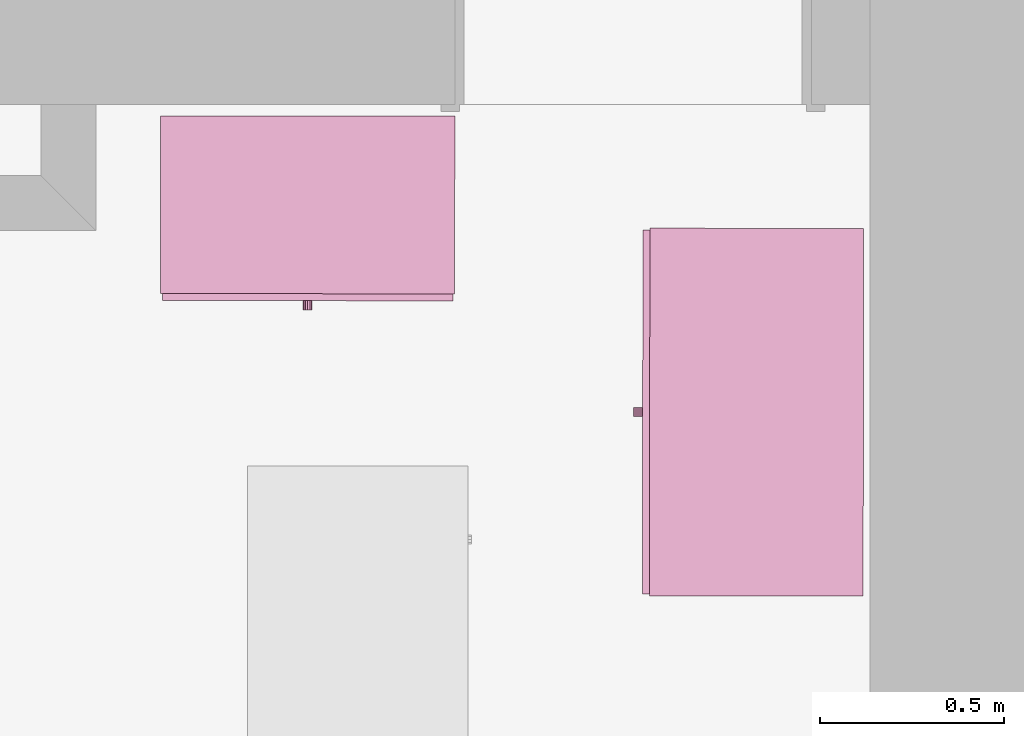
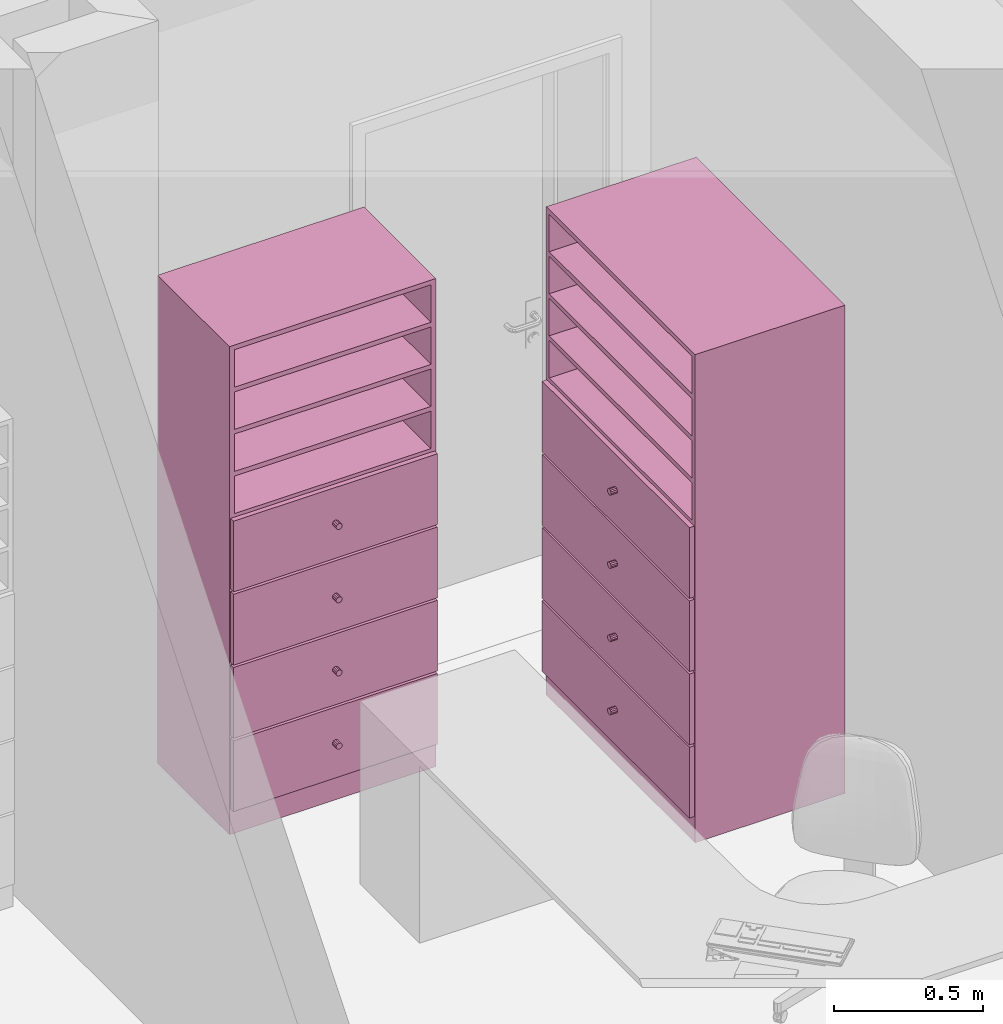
# One storey, part 163 of 194: 2 furnishings.
"""IFC2X3 building model written with IfcOpenShell, lengths in millimetres."""

import ifcopenshell
import ifcopenshell.guid

model = None  # the IFC model being written
_history = None  # IfcOwnerHistory: only IFC2X3 demands one
_inside = {}  # id of a spatial element -> (the spatial element, [elements in it])
_under = {}  # id of a project, library or spatial element -> (it, [spatial elements below it])
_declared = {}  # id of a project -> (the project, [libraries it declares])
_typed = {}  # id of a type object -> (the type object, [elements of that type])
_made_of = {}  # id of a material, layer set ... -> (it, [elements and type objects made of it])


def new_model(schema):
    """Start an empty IFC model of exactly this schema.

    Asked for "IFC4X3", IfcOpenShell would pick the latest addendum, in which some entities
    have other attributes; the version numbers below select the first issue.
    IFC2X3 requires an IfcOwnerHistory on every rooted entity: one is made here for all.
    """
    global model, _history
    if schema == "IFC4X3":
        model = ifcopenshell.file(schema_version=(4, 3, 0, 0))
    else:
        model = ifcopenshell.file(schema=schema)
    _inside.clear()
    _under.clear()
    _declared.clear()
    _typed.clear()
    _made_of.clear()
    _history = None
    if model.schema == "IFC2X3":
        org = make("IfcOrganization", Name="unknown")
        user = make(
            "IfcPersonAndOrganization",
            ThePerson=make("IfcPerson", FamilyName="unknown"),
            TheOrganization=org,
        )
        app = make(
            "IfcApplication",
            ApplicationDeveloper=org,
            Version="unknown",
            ApplicationFullName="unknown",
            ApplicationIdentifier="unknown",
        )
        _history = make(
            "IfcOwnerHistory",
            OwningUser=user,
            OwningApplication=app,
            ChangeAction="ADDED",
            CreationDate=0,
        )
    return model


def make(cls, **values):
    """One entity of the class cls with the attributes given. An attribute that is None is left unset."""
    return model.create_entity(
        cls, **{name: value for name, value in values.items() if value is not None}
    )


def entity(cls, *values):
    """Any entity or typed value of the class cls, its attributes in the order of the schema. None: left unset."""
    e = model.create_entity(cls)
    for i, value in enumerate(values):
        if value is not None:
            e[i] = value
    return e


def rooted(cls, **values):
    """An entity with a GlobalId (a new one), such as an element, a storey or a relation."""
    return make(cls, GlobalId=ifcopenshell.guid.new(), OwnerHistory=_history, **values)


def si_unit(unit_type, name, prefix=None):
    """IfcSIUnit, for example si_unit("LENGTHUNIT", "METRE", prefix="MILLI")."""
    return make("IfcSIUnit", UnitType=unit_type, Prefix=prefix, Name=name)


def converted_unit(unit_type, name, factor, base, dimensions=None, offset=None):
    """IfcConversionBasedUnit, such as the inch: factor (a typed value) times the base unit."""
    return make(
        "IfcConversionBasedUnit"
        if offset is None
        else "IfcConversionBasedUnitWithOffset",
        ConversionOffset=offset,
        Dimensions=None
        if dimensions is None
        else entity("IfcDimensionalExponents", *dimensions),
        UnitType=unit_type,
        Name=name,
        ConversionFactor=make(
            "IfcMeasureWithUnit", ValueComponent=factor, UnitComponent=base
        ),
    )


def derived_unit(unit_type, elements):
    """IfcDerivedUnit: a product of units, each with its exponent."""
    return make(
        "IfcDerivedUnit",
        Elements=[
            make("IfcDerivedUnitElement", Unit=unit, Exponent=power)
            for unit, power in elements
        ],
        UnitType=unit_type,
    )


def money_unit(currency):
    """IfcMonetaryUnit."""
    return make("IfcMonetaryUnit", Currency=currency)


def assignment(units):
    """IfcUnitAssignment: the units of a project."""
    return None if units is None else make("IfcUnitAssignment", Units=units)


def point(xyz):
    """IfcCartesianPoint."""
    return None if xyz is None else make("IfcCartesianPoint", Coordinates=xyz)


def direction(xyz):
    """IfcDirection."""
    return None if xyz is None else make("IfcDirection", DirectionRatios=xyz)


def frame(location, z_axis=None, x_axis=None):
    """IfcAxis2Placement3D, a coordinate frame: its origin and axes. An axis left out is left unset."""
    return make(
        "IfcAxis2Placement3D",
        Location=point(location),
        Axis=direction(z_axis),
        RefDirection=direction(x_axis),
    )


def origin_with_axes():
    """The frame at (0, 0, 0) with the z axis (0, 0, 1) and the x axis (1, 0, 0) written out."""
    return frame((0.0, 0.0, 0.0), z_axis=(0.0, 0.0, 1.0), x_axis=(1.0, 0.0, 0.0))


def place(relative_to, where):
    """IfcLocalPlacement: puts the frame where relative to a parent placement (None: the world)."""
    return make(
        "IfcLocalPlacement", PlacementRelTo=relative_to, RelativePlacement=where
    )


def context(
    kind, dimensions, precision=None, world=None, true_north=None, identifier=None
):
    """IfcGeometricRepresentationContext, for example the 3D "Model" context."""
    return make(
        "IfcGeometricRepresentationContext",
        ContextIdentifier=identifier,
        ContextType=kind,
        CoordinateSpaceDimension=dimensions,
        Precision=precision,
        WorldCoordinateSystem=world,
        TrueNorth=true_north,
    )


def subcontext(parent, identifier, kind, view, scale=None):
    """IfcGeometricRepresentationSubContext, for example "Body" below "Model"."""
    return make(
        "IfcGeometricRepresentationSubContext",
        ContextIdentifier=identifier,
        ContextType=kind,
        ParentContext=parent,
        TargetScale=scale,
        TargetView=view,
    )


def project(units=None, contexts=None):
    """IfcProject with its units and contexts."""
    return rooted(
        "IfcProject",
        Name="project",
        RepresentationContexts=contexts,
        UnitsInContext=assignment(units),
    )


def spatial(cls, under=None, at=None, **own):
    """A site, building, storey or space (cls), placed at a placement, below another one or the project."""
    s = rooted(cls, ObjectPlacement=at, **own)
    if under is not None:
        _under.setdefault(under.id(), (under, []))[1].append(s)
    return s


def faces_of(points, faces, orient=None, outer=None):
    """IfcFace entities. A face is a list of loops; a loop is a list of indices into points, from 0.

    orient and outer hold one flag for each loop. By default every Orientation is true, the
    first loop of a face is its IfcFaceOuterBound and the others are IfcFaceBound.
    """
    made = []
    for i, loops in enumerate(faces):
        bounds = []
        for j, loop in enumerate(loops):
            is_outer = j == 0 if outer is None else outer[i][j]
            bounds.append(
                make(
                    "IfcFaceOuterBound" if is_outer else "IfcFaceBound",
                    Bound=make("IfcPolyLoop", Polygon=[points[k] for k in loop]),
                    Orientation=True if orient is None else orient[i][j],
                )
            )
        made.append(make("IfcFace", Bounds=bounds))
    return made


def faceted_brep(points, faces, orient=None, outer=None, voids=None):
    """IfcFacetedBrep: a solid bounded by flat faces; with voids (closed shells), ...WithVoids."""
    shared = [point(p) for p in points]
    hull = make("IfcClosedShell", CfsFaces=faces_of(shared, faces, orient, outer))
    if voids is None:
        return make("IfcFacetedBrep", Outer=hull)
    return make(
        "IfcFacetedBrepWithVoids",
        Outer=hull,
        Voids=[
            make(cls, CfsFaces=faces_of(shared, fs, o, b)) for cls, fs, o, b in voids
        ],
    )


def shape(context_of_items, identifier, shape_type, items):
    """IfcShapeRepresentation: the items that make up one representation, for example the "Body"."""
    return make(
        "IfcShapeRepresentation",
        ContextOfItems=context_of_items,
        RepresentationIdentifier=identifier,
        RepresentationType=shape_type,
        Items=items,
    )


def made_of(thing, what):
    """Note that an element or type object is made of a material, layer set ...; save() writes the relation."""
    if what is not None:
        _made_of.setdefault(what.id(), (what, []))[1].append(thing)
    return thing


def type_object(cls, material=None, **own):
    """A type object (cls), such as IfcWallType, which elements share."""
    return made_of(rooted(cls, **own), material)


def element(
    cls,
    number,
    at=None,
    inside=None,
    cuts=None,
    type_object=None,
    material=None,
    context=None,
    identifier="Body",
    shape_type=None,
    held_by="IfcProductDefinitionShape",
    body=None,
    shapes=None,
    **own,
):
    """One element of the class cls, such as IfcWall. Its Tag is "e" and its number.

    at: its placement. inside: the storey or other place that contains it. cuts: it is an
    opening in that element (IfcRelVoidsElement). A single representation is given by context,
    identifier, shape_type and body (its items); several are given by shapes. held_by: the class
    of the entity that holds the representations. save() writes the other relations.
    """
    e = rooted(cls, Tag="e%d" % number, ObjectPlacement=at, **own)
    if body is not None:
        shapes = [shape(context, identifier, shape_type, body)]
    if shapes is not None:
        e.Representation = make(held_by, Representations=shapes)
    if inside is not None:
        _inside.setdefault(inside.id(), (inside, []))[1].append(e)
    if cuts is not None:
        rooted(
            "IfcRelVoidsElement", RelatingBuildingElement=cuts, RelatedOpeningElement=e
        )
    if type_object is not None:
        _typed.setdefault(type_object.id(), (type_object, []))[1].append(e)
    return made_of(e, material)


def aggregate(whole, parts):
    """IfcRelAggregates: a whole, such as a stair, and the parts it consists of."""
    return rooted("IfcRelAggregates", RelatingObject=whole, RelatedObjects=parts)


def save(model, path):
    """Write the relations noted so far, then the file.

    IfcRelAggregates (storeys below a building ...), IfcRelContainedInSpatialStructure (elements
    in a storey), IfcRelDefinesByType, IfcRelAssociatesMaterial and IfcRelDeclares: one each for
    every whole, place, type object, material and project.
    """
    for whole, parts in _under.values():
        aggregate(whole, parts)
    for where, things in _inside.values():
        rooted(
            "IfcRelContainedInSpatialStructure",
            RelatedElements=things,
            RelatingStructure=where,
        )
    for kind, things in _typed.values():
        rooted("IfcRelDefinesByType", RelatedObjects=things, RelatingType=kind)
    for what, things in _made_of.values():
        rooted("IfcRelAssociatesMaterial", RelatedObjects=things, RelatingMaterial=what)
    for by, libraries in _declared.values():
        rooted("IfcRelDeclares", RelatingContext=by, RelatedDefinitions=libraries)
    model.write(path)


model = new_model("IFC2X3")

# Units and contexts
model_context = context("Model", 3, precision=1e-05, world=origin_with_axes(), true_north=direction((0.0, 1.0)))
body_context = subcontext(model_context, "Body", "Model", "MODEL_VIEW")
ifc_project = project(units=[si_unit("LENGTHUNIT", "METRE", prefix="MILLI"), si_unit("AREAUNIT", "SQUARE_METRE"), si_unit("VOLUMEUNIT", "CUBIC_METRE"), converted_unit("PLANEANGLEUNIT", "DEGREE", entity("IfcPlaneAngleMeasure", 0.0174532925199), si_unit("PLANEANGLEUNIT", "RADIAN"), dimensions=[0, 0, 0, 0, 0, 0, 0]), si_unit("SOLIDANGLEUNIT", "STERADIAN"), money_unit("EUR"), converted_unit("TIMEUNIT", "Year", entity("IfcTimeMeasure", 31556926.0), si_unit("TIMEUNIT", "SECOND"), dimensions=[0, 0, 1, 0, 0, 0, 0]), si_unit("MASSUNIT", "GRAM", prefix="KILO"), si_unit("THERMODYNAMICTEMPERATUREUNIT", "DEGREE_CELSIUS"), si_unit("LUMINOUSINTENSITYUNIT", "LUMEN"), si_unit("ENERGYUNIT", "JOULE", prefix="MEGA"), derived_unit("THERMALCONDUCTANCEUNIT", [(si_unit("POWERUNIT", "WATT"), 1), (si_unit("LENGTHUNIT", "METRE"), -1), (si_unit("THERMODYNAMICTEMPERATUREUNIT", "KELVIN"), -1)]), derived_unit("SPECIFICHEATCAPACITYUNIT", [(si_unit("ENERGYUNIT", "JOULE"), 1), (si_unit("MASSUNIT", "GRAM", prefix="KILO"), -1), (si_unit("THERMODYNAMICTEMPERATUREUNIT", "KELVIN"), -1)]), derived_unit("MASSDENSITYUNIT", [(si_unit("MASSUNIT", "GRAM", prefix="KILO"), 1), (si_unit("VOLUMEUNIT", "CUBIC_METRE"), -1)])], contexts=[model_context])

# Site, building, storey
site_placement = place(None, origin_with_axes())
site = spatial("IfcSite", under=ifc_project, at=site_placement, Name="Site", CompositionType="ELEMENT")
building_placement = place(site_placement, origin_with_axes())
building = spatial("IfcBuilding", under=site, at=building_placement, Name="Building", CompositionType="ELEMENT")
storey_placement = place(building_placement, frame((0.0, 0.0, 3000.0), z_axis=(0.0, 0.0, 1.0), x_axis=(1.0, 0.0, 0.0)))
storey = spatial("IfcBuildingStorey", under=building, at=storey_placement, Name="2 KORRUS", CompositionType="ELEMENT", Elevation=3000.0)

# Furnishings
furnishing_element_type_1 = type_object("IfcFurnishingElementType", Name="Model Element 171")
furnishing_1_placement = place(storey_placement, frame((30117.0599054, 38258.0182743, 0.0), z_axis=(0.0, 0.0, 1.0), x_axis=(-0.00064265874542, -0.999999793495, 0.0)))
element("IfcFurnishingElement", 1, at=furnishing_1_placement, inside=storey, type_object=furnishing_element_type_1, Name="FU - 001", context=body_context, shape_type="Brep", body=[
    faceted_brep([(1000.0, 19.0, 0.0), (0.0, 19.0, 0.0), (0.0, 600.040938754, 0.0), (1000.0, 600.040938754, 0.0), (1000.0, 19.0, 100.0), (0.0, 19.0, 100.0), (0.0, 600.040938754, 100.0), (1000.0, 600.040938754, 100.0)], [[[0, 1, 2, 3]], [[1, 0, 4, 5]], [[2, 1, 5, 6]], [[3, 2, 6, 7]], [[0, 3, 7, 4]], [[5, 4, 7, 6]]]),
    faceted_brep([(19.0, 600.040938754, 119.0), (19.0, 581.040938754, 119.0), (19.0, 581.040938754, 1981.0), (19.0, 600.040938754, 1981.0), (981.0, 600.040938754, 119.0), (981.0, 581.040938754, 119.0), (981.0, 581.040938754, 1981.0), (981.0, 600.040938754, 1981.0)], [[[0, 1, 2, 3]], [[0, 4, 5, 1]], [[1, 5, 6, 2]], [[3, 2, 6, 7]], [[4, 0, 3, 7]], [[5, 4, 7, 6]]]),
    faceted_brep([(1000.0, 19.0, 100.0), (981.0, 19.0, 100.0), (981.0, 600.040938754, 100.0), (1000.0, 600.040938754, 100.0), (1000.0, 19.0, 2000.0), (981.0, 19.0, 2000.0), (981.0, 600.040938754, 2000.0), (1000.0, 600.040938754, 2000.0)], [[[0, 1, 2, 3]], [[1, 0, 4, 5]], [[2, 1, 5, 6]], [[3, 2, 6, 7]], [[0, 3, 7, 4]], [[5, 4, 7, 6]]]),
    faceted_brep([(19.0, 19.0, 100.0), (0.0, 19.0, 100.0), (0.0, 600.040938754, 100.0), (19.0, 600.040938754, 100.0), (19.0, 19.0, 2000.0), (0.0, 19.0, 2000.0), (0.0, 600.040938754, 2000.0), (19.0, 600.040938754, 2000.0)], [[[0, 1, 2, 3]], [[1, 0, 4, 5]], [[2, 1, 5, 6]], [[3, 2, 6, 7]], [[0, 3, 7, 4]], [[5, 4, 7, 6]]]),
    faceted_brep([(981.0, 19.0, 100.0), (19.0, 19.0, 100.0), (19.0, 600.040938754, 100.0), (981.0, 600.040938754, 100.0), (981.0, 19.0, 119.0), (19.0, 19.0, 119.0), (19.0, 600.040938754, 119.0), (981.0, 600.040938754, 119.0)], [[[0, 1, 2, 3]], [[1, 0, 4, 5]], [[2, 1, 5, 6]], [[3, 2, 6, 7]], [[0, 3, 7, 4]], [[5, 4, 7, 6]]]),
    faceted_brep([(981.0, 19.0, 1981.0), (19.0, 19.0, 1981.0), (19.0, 600.040938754, 1981.0), (981.0, 600.040938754, 1981.0), (981.0, 19.0, 2000.0), (19.0, 19.0, 2000.0), (19.0, 600.040938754, 2000.0), (981.0, 600.040938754, 2000.0)], [[[0, 1, 2, 3]], [[1, 0, 4, 5]], [[2, 1, 5, 6]], [[3, 2, 6, 7]], [[0, 3, 7, 4]], [[5, 4, 7, 6]]]),
    faceted_brep([(5.0, 19.0, 105.0), (995.0, 19.0, 105.0), (995.0, 0.0, 105.0), (5.0, 0.0, 105.0), (5.0, 19.0, 395.0), (995.0, 19.0, 395.0), (995.0, 0.0, 395.0), (5.0, 0.0, 395.0)], [[[0, 1, 2, 3]], [[0, 4, 5, 1]], [[1, 5, 6, 2]], [[3, 2, 6, 7]], [[4, 0, 3, 7]], [[5, 4, 7, 6]]]),
    faceted_brep([(510.392304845, 0.0, 244.0), (506.0, 0.0, 239.607695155), (500.0, 0.0, 238.0), (494.0, 0.0, 239.607695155), (489.607695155, 0.0, 244.0), (488.0, 0.0, 250.0), (489.607695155, 0.0, 256.0), (494.0, 0.0, 260.392304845), (500.0, 0.0, 262.0), (506.0, 0.0, 260.392304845), (510.392304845, 0.0, 256.0), (512.0, 0.0, 250.0), (510.392304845, -25.0, 244.0), (506.0, -25.0, 239.607695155), (500.0, -25.0, 238.0), (494.0, -25.0, 239.607695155), (489.607695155, -25.0, 244.0), (488.0, -25.0, 250.0), (489.607695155, -25.0, 256.0), (494.0, -25.0, 260.392304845), (500.0, -25.0, 262.0), (506.0, -25.0, 260.392304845), (510.392304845, -25.0, 256.0), (512.0, -25.0, 250.0)], [[[0, 1, 2, 3, 4, 5, 6, 7, 8, 9, 10, 11]], [[1, 0, 12, 13]], [[2, 1, 13, 14]], [[3, 2, 14, 15]], [[4, 3, 15, 16]], [[5, 4, 16, 17]], [[6, 5, 17, 18]], [[7, 6, 18, 19]], [[8, 7, 19, 20]], [[9, 8, 20, 21]], [[10, 9, 21, 22]], [[11, 10, 22, 23]], [[0, 11, 23, 12]], [[12, 23, 22, 21, 20, 19, 18, 17, 16, 15, 14, 13]]]),
    faceted_brep([(5.0, 19.0, 405.0), (995.0, 19.0, 405.0), (995.0, 0.0, 405.0), (5.0, 0.0, 405.0), (5.0, 19.0, 695.0), (995.0, 19.0, 695.0), (995.0, 0.0, 695.0), (5.0, 0.0, 695.0)], [[[0, 1, 2, 3]], [[0, 4, 5, 1]], [[1, 5, 6, 2]], [[3, 2, 6, 7]], [[4, 0, 3, 7]], [[5, 4, 7, 6]]]),
    faceted_brep([(510.392304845, 0.0, 544.0), (506.0, 0.0, 539.607695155), (500.0, 0.0, 538.0), (494.0, 0.0, 539.607695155), (489.607695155, 0.0, 544.0), (488.0, 0.0, 550.0), (489.607695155, 0.0, 556.0), (494.0, 0.0, 560.392304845), (500.0, 0.0, 562.0), (506.0, 0.0, 560.392304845), (510.392304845, 0.0, 556.0), (512.0, 0.0, 550.0), (510.392304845, -25.0, 544.0), (506.0, -25.0, 539.607695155), (500.0, -25.0, 538.0), (494.0, -25.0, 539.607695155), (489.607695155, -25.0, 544.0), (488.0, -25.0, 550.0), (489.607695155, -25.0, 556.0), (494.0, -25.0, 560.392304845), (500.0, -25.0, 562.0), (506.0, -25.0, 560.392304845), (510.392304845, -25.0, 556.0), (512.0, -25.0, 550.0)], [[[0, 1, 2, 3, 4, 5, 6, 7, 8, 9, 10, 11]], [[1, 0, 12, 13]], [[2, 1, 13, 14]], [[3, 2, 14, 15]], [[4, 3, 15, 16]], [[5, 4, 16, 17]], [[6, 5, 17, 18]], [[7, 6, 18, 19]], [[8, 7, 19, 20]], [[9, 8, 20, 21]], [[10, 9, 21, 22]], [[11, 10, 22, 23]], [[0, 11, 23, 12]], [[12, 23, 22, 21, 20, 19, 18, 17, 16, 15, 14, 13]]]),
    faceted_brep([(5.0, 19.0, 705.0), (995.0, 19.0, 705.0), (995.0, 0.0, 705.0), (5.0, 0.0, 705.0), (5.0, 19.0, 995.0), (995.0, 19.0, 995.0), (995.0, 0.0, 995.0), (5.0, 0.0, 995.0)], [[[0, 1, 2, 3]], [[0, 4, 5, 1]], [[1, 5, 6, 2]], [[3, 2, 6, 7]], [[4, 0, 3, 7]], [[5, 4, 7, 6]]]),
    faceted_brep([(510.392304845, 0.0, 844.0), (506.0, 0.0, 839.607695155), (500.0, 0.0, 838.0), (494.0, 0.0, 839.607695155), (489.607695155, 0.0, 844.0), (488.0, 0.0, 850.0), (489.607695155, 0.0, 856.0), (494.0, 0.0, 860.392304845), (500.0, 0.0, 862.0), (506.0, 0.0, 860.392304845), (510.392304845, 0.0, 856.0), (512.0, 0.0, 850.0), (510.392304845, -25.0, 844.0), (506.0, -25.0, 839.607695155), (500.0, -25.0, 838.0), (494.0, -25.0, 839.607695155), (489.607695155, -25.0, 844.0), (488.0, -25.0, 850.0), (489.607695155, -25.0, 856.0), (494.0, -25.0, 860.392304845), (500.0, -25.0, 862.0), (506.0, -25.0, 860.392304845), (510.392304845, -25.0, 856.0), (512.0, -25.0, 850.0)], [[[0, 1, 2, 3, 4, 5, 6, 7, 8, 9, 10, 11]], [[1, 0, 12, 13]], [[2, 1, 13, 14]], [[3, 2, 14, 15]], [[4, 3, 15, 16]], [[5, 4, 16, 17]], [[6, 5, 17, 18]], [[7, 6, 18, 19]], [[8, 7, 19, 20]], [[9, 8, 20, 21]], [[10, 9, 21, 22]], [[11, 10, 22, 23]], [[0, 11, 23, 12]], [[12, 23, 22, 21, 20, 19, 18, 17, 16, 15, 14, 13]]]),
    faceted_brep([(5.0, 19.0, 1005.0), (995.0, 19.0, 1005.0), (995.0, 0.0, 1005.0), (5.0, 0.0, 1005.0), (5.0, 19.0, 1295.0), (995.0, 19.0, 1295.0), (995.0, 0.0, 1295.0), (5.0, 0.0, 1295.0)], [[[0, 1, 2, 3]], [[0, 4, 5, 1]], [[1, 5, 6, 2]], [[3, 2, 6, 7]], [[4, 0, 3, 7]], [[5, 4, 7, 6]]]),
    faceted_brep([(510.392304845, 0.0, 1144.0), (506.0, 0.0, 1139.60769515), (500.0, 0.0, 1138.0), (494.0, 0.0, 1139.60769515), (489.607695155, 0.0, 1144.0), (488.0, 0.0, 1150.0), (489.607695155, 0.0, 1156.0), (494.0, 0.0, 1160.39230485), (500.0, 0.0, 1162.0), (506.0, 0.0, 1160.39230485), (510.392304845, 0.0, 1156.0), (512.0, 0.0, 1150.0), (510.392304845, -25.0, 1144.0), (506.0, -25.0, 1139.60769515), (500.0, -25.0, 1138.0), (494.0, -25.0, 1139.60769515), (489.607695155, -25.0, 1144.0), (488.0, -25.0, 1150.0), (489.607695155, -25.0, 1156.0), (494.0, -25.0, 1160.39230485), (500.0, -25.0, 1162.0), (506.0, -25.0, 1160.39230485), (510.392304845, -25.0, 1156.0), (512.0, -25.0, 1150.0)], [[[0, 1, 2, 3, 4, 5, 6, 7, 8, 9, 10, 11]], [[1, 0, 12, 13]], [[2, 1, 13, 14]], [[3, 2, 14, 15]], [[4, 3, 15, 16]], [[5, 4, 16, 17]], [[6, 5, 17, 18]], [[7, 6, 18, 19]], [[8, 7, 19, 20]], [[9, 8, 20, 21]], [[10, 9, 21, 22]], [[11, 10, 22, 23]], [[0, 11, 23, 12]], [[12, 23, 22, 21, 20, 19, 18, 17, 16, 15, 14, 13]]]),
    faceted_brep([(19.0, 19.0, 390.5), (981.0, 19.0, 390.5), (981.0, 19.0, 409.5), (19.0, 19.0, 409.5), (19.0, 581.040938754, 390.5), (981.0, 581.040938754, 390.5), (981.0, 581.040938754, 409.5), (19.0, 581.040938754, 409.5)], [[[0, 1, 2, 3]], [[0, 4, 5, 1]], [[1, 5, 6, 2]], [[3, 2, 6, 7]], [[4, 0, 3, 7]], [[5, 4, 7, 6]]]),
    faceted_brep([(19.0, 19.0, 690.5), (981.0, 19.0, 690.5), (981.0, 19.0, 709.5), (19.0, 19.0, 709.5), (19.0, 581.040938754, 690.5), (981.0, 581.040938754, 690.5), (981.0, 581.040938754, 709.5), (19.0, 581.040938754, 709.5)], [[[0, 1, 2, 3]], [[0, 4, 5, 1]], [[1, 5, 6, 2]], [[3, 2, 6, 7]], [[4, 0, 3, 7]], [[5, 4, 7, 6]]]),
    faceted_brep([(19.0, 19.0, 990.5), (981.0, 19.0, 990.5), (981.0, 19.0, 1009.5), (19.0, 19.0, 1009.5), (19.0, 581.040938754, 990.5), (981.0, 581.040938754, 990.5), (981.0, 581.040938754, 1009.5), (19.0, 581.040938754, 1009.5)], [[[0, 1, 2, 3]], [[0, 4, 5, 1]], [[1, 5, 6, 2]], [[3, 2, 6, 7]], [[4, 0, 3, 7]], [[5, 4, 7, 6]]]),
    faceted_brep([(19.0, 19.0, 1290.5), (981.0, 19.0, 1290.5), (981.0, 19.0, 1309.5), (19.0, 19.0, 1309.5), (19.0, 581.040938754, 1290.5), (981.0, 581.040938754, 1290.5), (981.0, 581.040938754, 1309.5), (19.0, 581.040938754, 1309.5)], [[[0, 1, 2, 3]], [[0, 4, 5, 1]], [[1, 5, 6, 2]], [[3, 2, 6, 7]], [[4, 0, 3, 7]], [[5, 4, 7, 6]]]),
    faceted_brep([(981.0, 19.0, 1463.125), (19.0, 19.0, 1463.125), (19.0, 581.040938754, 1463.125), (981.0, 581.040938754, 1463.125), (981.0, 19.0, 1482.125), (19.0, 19.0, 1482.125), (19.0, 581.040938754, 1482.125), (981.0, 581.040938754, 1482.125)], [[[0, 1, 2, 3]], [[1, 0, 4, 5]], [[2, 1, 5, 6]], [[3, 2, 6, 7]], [[0, 3, 7, 4]], [[5, 4, 7, 6]]]),
    faceted_brep([(981.0, 19.0, 1635.75), (19.0, 19.0, 1635.75), (19.0, 581.040938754, 1635.75), (981.0, 581.040938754, 1635.75), (981.0, 19.0, 1654.75), (19.0, 19.0, 1654.75), (19.0, 581.040938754, 1654.75), (981.0, 581.040938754, 1654.75)], [[[0, 1, 2, 3]], [[1, 0, 4, 5]], [[2, 1, 5, 6]], [[3, 2, 6, 7]], [[0, 3, 7, 4]], [[5, 4, 7, 6]]]),
    faceted_brep([(981.0, 19.0, 1808.375), (19.0, 19.0, 1808.375), (19.0, 581.040938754, 1808.375), (981.0, 581.040938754, 1808.375), (981.0, 19.0, 1827.375), (19.0, 19.0, 1827.375), (19.0, 581.040938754, 1827.375), (981.0, 581.040938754, 1827.375)], [[[0, 1, 2, 3]], [[1, 0, 4, 5]], [[2, 1, 5, 6]], [[3, 2, 6, 7]], [[0, 3, 7, 4]], [[5, 4, 7, 6]]]),
])
furnishing_element_type_2 = type_object("IfcFurnishingElementType", Name="Model Element 173")
furnishing_2_placement = place(storey_placement, frame((28805.2348295, 38061.0250646, 0.0), z_axis=(0.0, 0.0, 1.0), x_axis=(0.999999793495, -0.000642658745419, 0.0)))
element("IfcFurnishingElement", 2, at=furnishing_2_placement, inside=storey, type_object=furnishing_element_type_2, Name="FU - 001", context=body_context, shape_type="Brep", body=[
    faceted_brep([(800.0, 19.0, 0.0), (0.0, 19.0, 0.0), (0.0, 502.225355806, 0.0), (800.0, 502.225355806, 0.0), (800.0, 19.0, 100.0), (0.0, 19.0, 100.0), (0.0, 502.225355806, 100.0), (800.0, 502.225355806, 100.0)], [[[0, 1, 2, 3]], [[1, 0, 4, 5]], [[2, 1, 5, 6]], [[3, 2, 6, 7]], [[0, 3, 7, 4]], [[5, 4, 7, 6]]]),
    faceted_brep([(19.0, 502.225355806, 119.0), (19.0, 483.225355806, 119.0), (19.0, 483.225355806, 1981.0), (19.0, 502.225355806, 1981.0), (781.0, 502.225355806, 119.0), (781.0, 483.225355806, 119.0), (781.0, 483.225355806, 1981.0), (781.0, 502.225355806, 1981.0)], [[[0, 1, 2, 3]], [[0, 4, 5, 1]], [[1, 5, 6, 2]], [[3, 2, 6, 7]], [[4, 0, 3, 7]], [[5, 4, 7, 6]]]),
    faceted_brep([(800.0, 19.0, 100.0), (781.0, 19.0, 100.0), (781.0, 502.225355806, 100.0), (800.0, 502.225355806, 100.0), (800.0, 19.0, 2000.0), (781.0, 19.0, 2000.0), (781.0, 502.225355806, 2000.0), (800.0, 502.225355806, 2000.0)], [[[0, 1, 2, 3]], [[1, 0, 4, 5]], [[2, 1, 5, 6]], [[3, 2, 6, 7]], [[0, 3, 7, 4]], [[5, 4, 7, 6]]]),
    faceted_brep([(19.0, 19.0, 100.0), (0.0, 19.0, 100.0), (0.0, 502.225355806, 100.0), (19.0, 502.225355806, 100.0), (19.0, 19.0, 2000.0), (0.0, 19.0, 2000.0), (0.0, 502.225355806, 2000.0), (19.0, 502.225355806, 2000.0)], [[[0, 1, 2, 3]], [[1, 0, 4, 5]], [[2, 1, 5, 6]], [[3, 2, 6, 7]], [[0, 3, 7, 4]], [[5, 4, 7, 6]]]),
    faceted_brep([(781.0, 19.0, 100.0), (19.0, 19.0, 100.0), (19.0, 502.225355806, 100.0), (781.0, 502.225355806, 100.0), (781.0, 19.0, 119.0), (19.0, 19.0, 119.0), (19.0, 502.225355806, 119.0), (781.0, 502.225355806, 119.0)], [[[0, 1, 2, 3]], [[1, 0, 4, 5]], [[2, 1, 5, 6]], [[3, 2, 6, 7]], [[0, 3, 7, 4]], [[5, 4, 7, 6]]]),
    faceted_brep([(781.0, 19.0, 1981.0), (19.0, 19.0, 1981.0), (19.0, 502.225355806, 1981.0), (781.0, 502.225355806, 1981.0), (781.0, 19.0, 2000.0), (19.0, 19.0, 2000.0), (19.0, 502.225355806, 2000.0), (781.0, 502.225355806, 2000.0)], [[[0, 1, 2, 3]], [[1, 0, 4, 5]], [[2, 1, 5, 6]], [[3, 2, 6, 7]], [[0, 3, 7, 4]], [[5, 4, 7, 6]]]),
    faceted_brep([(5.0, 19.0, 105.0), (795.0, 19.0, 105.0), (795.0, 0.0, 105.0), (5.0, 0.0, 105.0), (5.0, 19.0, 395.0), (795.0, 19.0, 395.0), (795.0, 0.0, 395.0), (5.0, 0.0, 395.0)], [[[0, 1, 2, 3]], [[0, 4, 5, 1]], [[1, 5, 6, 2]], [[3, 2, 6, 7]], [[4, 0, 3, 7]], [[5, 4, 7, 6]]]),
    faceted_brep([(410.392304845, 0.0, 244.0), (406.0, 0.0, 239.607695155), (400.0, 0.0, 238.0), (394.0, 0.0, 239.607695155), (389.607695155, 0.0, 244.0), (388.0, 0.0, 250.0), (389.607695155, 0.0, 256.0), (394.0, 0.0, 260.392304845), (400.0, 0.0, 262.0), (406.0, 0.0, 260.392304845), (410.392304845, 0.0, 256.0), (412.0, 0.0, 250.0), (410.392304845, -25.0, 244.0), (406.0, -25.0, 239.607695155), (400.0, -25.0, 238.0), (394.0, -25.0, 239.607695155), (389.607695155, -25.0, 244.0), (388.0, -25.0, 250.0), (389.607695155, -25.0, 256.0), (394.0, -25.0, 260.392304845), (400.0, -25.0, 262.0), (406.0, -25.0, 260.392304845), (410.392304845, -25.0, 256.0), (412.0, -25.0, 250.0)], [[[0, 1, 2, 3, 4, 5, 6, 7, 8, 9, 10, 11]], [[1, 0, 12, 13]], [[2, 1, 13, 14]], [[3, 2, 14, 15]], [[4, 3, 15, 16]], [[5, 4, 16, 17]], [[6, 5, 17, 18]], [[7, 6, 18, 19]], [[8, 7, 19, 20]], [[9, 8, 20, 21]], [[10, 9, 21, 22]], [[11, 10, 22, 23]], [[0, 11, 23, 12]], [[12, 23, 22, 21, 20, 19, 18, 17, 16, 15, 14, 13]]]),
    faceted_brep([(5.0, 19.0, 405.0), (795.0, 19.0, 405.0), (795.0, 0.0, 405.0), (5.0, 0.0, 405.0), (5.0, 19.0, 695.0), (795.0, 19.0, 695.0), (795.0, 0.0, 695.0), (5.0, 0.0, 695.0)], [[[0, 1, 2, 3]], [[0, 4, 5, 1]], [[1, 5, 6, 2]], [[3, 2, 6, 7]], [[4, 0, 3, 7]], [[5, 4, 7, 6]]]),
    faceted_brep([(410.392304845, 0.0, 544.0), (406.0, 0.0, 539.607695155), (400.0, 0.0, 538.0), (394.0, 0.0, 539.607695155), (389.607695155, 0.0, 544.0), (388.0, 0.0, 550.0), (389.607695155, 0.0, 556.0), (394.0, 0.0, 560.392304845), (400.0, 0.0, 562.0), (406.0, 0.0, 560.392304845), (410.392304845, 0.0, 556.0), (412.0, 0.0, 550.0), (410.392304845, -25.0, 544.0), (406.0, -25.0, 539.607695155), (400.0, -25.0, 538.0), (394.0, -25.0, 539.607695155), (389.607695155, -25.0, 544.0), (388.0, -25.0, 550.0), (389.607695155, -25.0, 556.0), (394.0, -25.0, 560.392304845), (400.0, -25.0, 562.0), (406.0, -25.0, 560.392304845), (410.392304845, -25.0, 556.0), (412.0, -25.0, 550.0)], [[[0, 1, 2, 3, 4, 5, 6, 7, 8, 9, 10, 11]], [[1, 0, 12, 13]], [[2, 1, 13, 14]], [[3, 2, 14, 15]], [[4, 3, 15, 16]], [[5, 4, 16, 17]], [[6, 5, 17, 18]], [[7, 6, 18, 19]], [[8, 7, 19, 20]], [[9, 8, 20, 21]], [[10, 9, 21, 22]], [[11, 10, 22, 23]], [[0, 11, 23, 12]], [[12, 23, 22, 21, 20, 19, 18, 17, 16, 15, 14, 13]]]),
    faceted_brep([(5.0, 19.0, 705.0), (795.0, 19.0, 705.0), (795.0, 0.0, 705.0), (5.0, 0.0, 705.0), (5.0, 19.0, 995.0), (795.0, 19.0, 995.0), (795.0, 0.0, 995.0), (5.0, 0.0, 995.0)], [[[0, 1, 2, 3]], [[0, 4, 5, 1]], [[1, 5, 6, 2]], [[3, 2, 6, 7]], [[4, 0, 3, 7]], [[5, 4, 7, 6]]]),
    faceted_brep([(410.392304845, 0.0, 844.0), (406.0, 0.0, 839.607695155), (400.0, 0.0, 838.0), (394.0, 0.0, 839.607695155), (389.607695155, 0.0, 844.0), (388.0, 0.0, 850.0), (389.607695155, 0.0, 856.0), (394.0, 0.0, 860.392304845), (400.0, 0.0, 862.0), (406.0, 0.0, 860.392304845), (410.392304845, 0.0, 856.0), (412.0, 0.0, 850.0), (410.392304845, -25.0, 844.0), (406.0, -25.0, 839.607695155), (400.0, -25.0, 838.0), (394.0, -25.0, 839.607695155), (389.607695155, -25.0, 844.0), (388.0, -25.0, 850.0), (389.607695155, -25.0, 856.0), (394.0, -25.0, 860.392304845), (400.0, -25.0, 862.0), (406.0, -25.0, 860.392304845), (410.392304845, -25.0, 856.0), (412.0, -25.0, 850.0)], [[[0, 1, 2, 3, 4, 5, 6, 7, 8, 9, 10, 11]], [[1, 0, 12, 13]], [[2, 1, 13, 14]], [[3, 2, 14, 15]], [[4, 3, 15, 16]], [[5, 4, 16, 17]], [[6, 5, 17, 18]], [[7, 6, 18, 19]], [[8, 7, 19, 20]], [[9, 8, 20, 21]], [[10, 9, 21, 22]], [[11, 10, 22, 23]], [[0, 11, 23, 12]], [[12, 23, 22, 21, 20, 19, 18, 17, 16, 15, 14, 13]]]),
    faceted_brep([(5.0, 19.0, 1005.0), (795.0, 19.0, 1005.0), (795.0, 0.0, 1005.0), (5.0, 0.0, 1005.0), (5.0, 19.0, 1295.0), (795.0, 19.0, 1295.0), (795.0, 0.0, 1295.0), (5.0, 0.0, 1295.0)], [[[0, 1, 2, 3]], [[0, 4, 5, 1]], [[1, 5, 6, 2]], [[3, 2, 6, 7]], [[4, 0, 3, 7]], [[5, 4, 7, 6]]]),
    faceted_brep([(410.392304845, 0.0, 1144.0), (406.0, 0.0, 1139.60769515), (400.0, 0.0, 1138.0), (394.0, 0.0, 1139.60769515), (389.607695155, 0.0, 1144.0), (388.0, 0.0, 1150.0), (389.607695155, 0.0, 1156.0), (394.0, 0.0, 1160.39230485), (400.0, 0.0, 1162.0), (406.0, 0.0, 1160.39230485), (410.392304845, 0.0, 1156.0), (412.0, 0.0, 1150.0), (410.392304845, -25.0, 1144.0), (406.0, -25.0, 1139.60769515), (400.0, -25.0, 1138.0), (394.0, -25.0, 1139.60769515), (389.607695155, -25.0, 1144.0), (388.0, -25.0, 1150.0), (389.607695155, -25.0, 1156.0), (394.0, -25.0, 1160.39230485), (400.0, -25.0, 1162.0), (406.0, -25.0, 1160.39230485), (410.392304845, -25.0, 1156.0), (412.0, -25.0, 1150.0)], [[[0, 1, 2, 3, 4, 5, 6, 7, 8, 9, 10, 11]], [[1, 0, 12, 13]], [[2, 1, 13, 14]], [[3, 2, 14, 15]], [[4, 3, 15, 16]], [[5, 4, 16, 17]], [[6, 5, 17, 18]], [[7, 6, 18, 19]], [[8, 7, 19, 20]], [[9, 8, 20, 21]], [[10, 9, 21, 22]], [[11, 10, 22, 23]], [[0, 11, 23, 12]], [[12, 23, 22, 21, 20, 19, 18, 17, 16, 15, 14, 13]]]),
    faceted_brep([(19.0, 19.0, 390.5), (781.0, 19.0, 390.5), (781.0, 19.0, 409.5), (19.0, 19.0, 409.5), (19.0, 483.225355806, 390.5), (781.0, 483.225355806, 390.5), (781.0, 483.225355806, 409.5), (19.0, 483.225355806, 409.5)], [[[0, 1, 2, 3]], [[0, 4, 5, 1]], [[1, 5, 6, 2]], [[3, 2, 6, 7]], [[4, 0, 3, 7]], [[5, 4, 7, 6]]]),
    faceted_brep([(19.0, 19.0, 690.5), (781.0, 19.0, 690.5), (781.0, 19.0, 709.5), (19.0, 19.0, 709.5), (19.0, 483.225355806, 690.5), (781.0, 483.225355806, 690.5), (781.0, 483.225355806, 709.5), (19.0, 483.225355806, 709.5)], [[[0, 1, 2, 3]], [[0, 4, 5, 1]], [[1, 5, 6, 2]], [[3, 2, 6, 7]], [[4, 0, 3, 7]], [[5, 4, 7, 6]]]),
    faceted_brep([(19.0, 19.0, 990.5), (781.0, 19.0, 990.5), (781.0, 19.0, 1009.5), (19.0, 19.0, 1009.5), (19.0, 483.225355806, 990.5), (781.0, 483.225355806, 990.5), (781.0, 483.225355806, 1009.5), (19.0, 483.225355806, 1009.5)], [[[0, 1, 2, 3]], [[0, 4, 5, 1]], [[1, 5, 6, 2]], [[3, 2, 6, 7]], [[4, 0, 3, 7]], [[5, 4, 7, 6]]]),
    faceted_brep([(19.0, 19.0, 1290.5), (781.0, 19.0, 1290.5), (781.0, 19.0, 1309.5), (19.0, 19.0, 1309.5), (19.0, 483.225355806, 1290.5), (781.0, 483.225355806, 1290.5), (781.0, 483.225355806, 1309.5), (19.0, 483.225355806, 1309.5)], [[[0, 1, 2, 3]], [[0, 4, 5, 1]], [[1, 5, 6, 2]], [[3, 2, 6, 7]], [[4, 0, 3, 7]], [[5, 4, 7, 6]]]),
    faceted_brep([(781.0, 19.0, 1463.125), (19.0, 19.0, 1463.125), (19.0, 483.225355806, 1463.125), (781.0, 483.225355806, 1463.125), (781.0, 19.0, 1482.125), (19.0, 19.0, 1482.125), (19.0, 483.225355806, 1482.125), (781.0, 483.225355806, 1482.125)], [[[0, 1, 2, 3]], [[1, 0, 4, 5]], [[2, 1, 5, 6]], [[3, 2, 6, 7]], [[0, 3, 7, 4]], [[5, 4, 7, 6]]]),
    faceted_brep([(781.0, 19.0, 1635.75), (19.0, 19.0, 1635.75), (19.0, 483.225355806, 1635.75), (781.0, 483.225355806, 1635.75), (781.0, 19.0, 1654.75), (19.0, 19.0, 1654.75), (19.0, 483.225355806, 1654.75), (781.0, 483.225355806, 1654.75)], [[[0, 1, 2, 3]], [[1, 0, 4, 5]], [[2, 1, 5, 6]], [[3, 2, 6, 7]], [[0, 3, 7, 4]], [[5, 4, 7, 6]]]),
    faceted_brep([(781.0, 19.0, 1808.375), (19.0, 19.0, 1808.375), (19.0, 483.225355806, 1808.375), (781.0, 483.225355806, 1808.375), (781.0, 19.0, 1827.375), (19.0, 19.0, 1827.375), (19.0, 483.225355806, 1827.375), (781.0, 483.225355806, 1827.375)], [[[0, 1, 2, 3]], [[1, 0, 4, 5]], [[2, 1, 5, 6]], [[3, 2, 6, 7]], [[0, 3, 7, 4]], [[5, 4, 7, 6]]]),
])

save(model, "model.ifc")
